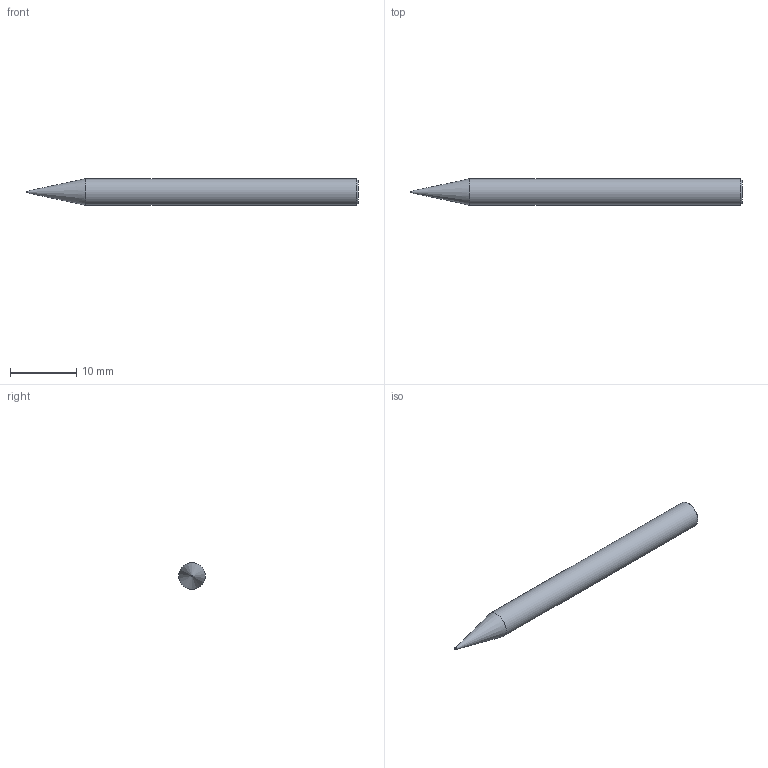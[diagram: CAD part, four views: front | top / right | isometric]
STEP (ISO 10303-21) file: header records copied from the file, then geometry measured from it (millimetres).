
FILE_DESCRIPTION(/* description */ (''),/* implementation_level */ '2;1');
FILE_NAME(/* name */ 'HSXB2003 0450.stp',/* time_stamp */ '2026-08-01T14:38:47+08:00',/* author */ (''),/* organization */ (''),/* preprocessor_version */ 'ST-DEVELOPER v16',/* originating_system */ 'SIEMENS PLM Software NX 10.0',/* authorisation */ '');
FILE_SCHEMA (('CONFIG_CONTROL_DESIGN'));
Length unit declared in the file: millimetre
Products named in the file (1): HSXB2003 0450_dxf
Bounding box: 50 x 4 x 4 mm (x, y, z)
Volume: 554.3 mm3; surface area: 586.6 mm2
Topology: 1 solids, 1 shells, 6 faces, 12 edges, 7 vertices
Faces by surface type: cylinder 2, cone 2, plane 1, sphere 1
Full cylindrical faces by diameter (mm): 0.3 x1, 4 x1
Entity records: 198 total; most frequent: DIRECTION 24, CARTESIAN_POINT 17, AXIS2_PLACEMENT_3D 12, EDGE_LOOP 10, ORIENTED_EDGE 10, FACE_BOUND 8, PERSON_AND_ORGANIZATION 7, ORGANIZATION 7
